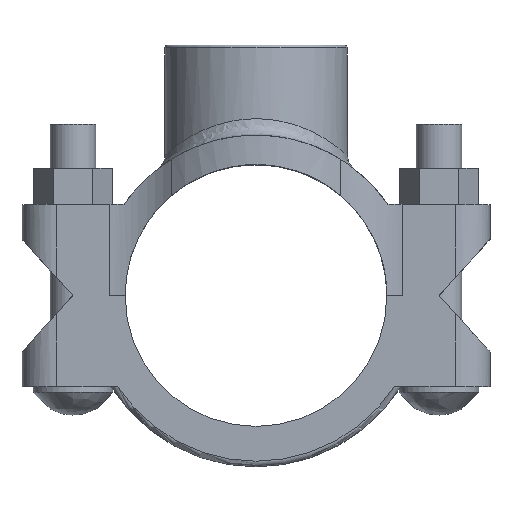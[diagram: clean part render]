
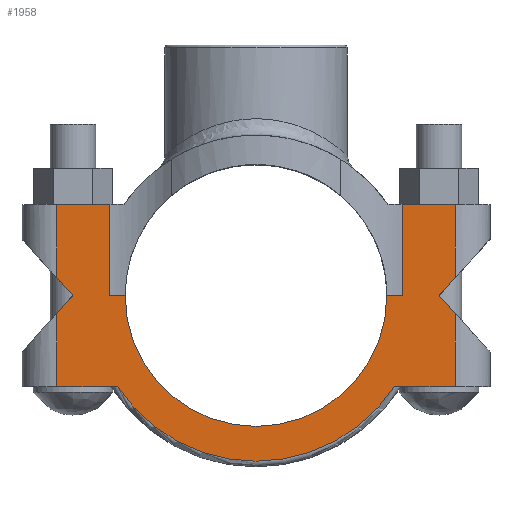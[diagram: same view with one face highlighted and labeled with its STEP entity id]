
A CAD part, top view. The second image highlights one B-rep face of the part: STEP entity #1958.
In plain terms, the highlighted planar face has unit normal (0, 0, 1).
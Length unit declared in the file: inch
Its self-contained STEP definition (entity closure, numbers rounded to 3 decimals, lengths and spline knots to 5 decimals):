
#109=PLANE('',#2148);
#166=LINE('',#3040,#318);
#172=LINE('',#3227,#324);
#215=LINE('',#3449,#367);
#228=LINE('',#3486,#380);
#235=LINE('',#3602,#387);
#239=LINE('',#3615,#391);
#244=LINE('',#3626,#396);
#245=LINE('',#3628,#397);
#254=LINE('',#3652,#406);
#255=LINE('',#3656,#407);
#256=LINE('',#3659,#408);
#257=LINE('',#3660,#409);
#258=LINE('',#3662,#410);
#259=LINE('',#3663,#411);
#260=LINE('',#3665,#412);
#261=LINE('',#3666,#413);
#318=VECTOR('',#2311,0.3937);
#324=VECTOR('',#2359,0.3937);
#367=VECTOR('',#2504,0.3937);
#380=VECTOR('',#2541,0.3937);
#387=VECTOR('',#2556,0.3937);
#391=VECTOR('',#2568,0.3937);
#396=VECTOR('',#2581,0.3937);
#397=VECTOR('',#2584,0.3937);
#406=VECTOR('',#2611,0.3937);
#407=VECTOR('',#2616,0.3937);
#408=VECTOR('',#2619,0.3937);
#409=VECTOR('',#2620,0.3937);
#410=VECTOR('',#2621,0.3937);
#411=VECTOR('',#2622,0.3937);
#412=VECTOR('',#2623,0.3937);
#413=VECTOR('',#2624,0.3937);
#502=FACE_OUTER_BOUND('',#606,.T.);
#606=EDGE_LOOP('',(#1592,#1593,#1594,#1595,#1596,#1597,#1598,#1599,#1600,
#1601,#1602,#1603,#1604,#1605,#1606,#1607,#1608,#1609));
#694=CIRCLE('',#2126,1.4375);
#702=CIRCLE('',#2149,1.82);
#794=VERTEX_POINT('',#3037);
#795=VERTEX_POINT('',#3039);
#810=VERTEX_POINT('',#3224);
#811=VERTEX_POINT('',#3226);
#861=VERTEX_POINT('',#3446);
#862=VERTEX_POINT('',#3448);
#873=VERTEX_POINT('',#3483);
#874=VERTEX_POINT('',#3485);
#877=VERTEX_POINT('',#3492);
#882=VERTEX_POINT('',#3545);
#887=VERTEX_POINT('',#3601);
#892=VERTEX_POINT('',#3613);
#894=VERTEX_POINT('',#3624);
#900=VERTEX_POINT('',#3651);
#901=VERTEX_POINT('',#3655);
#902=VERTEX_POINT('',#3657);
#903=VERTEX_POINT('',#3661);
#904=VERTEX_POINT('',#3664);
#993=EDGE_CURVE('',#795,#794,#166,.T.);
#1016=EDGE_CURVE('',#811,#810,#172,.T.);
#1089=EDGE_CURVE('',#862,#861,#215,.T.);
#1108=EDGE_CURVE('',#874,#873,#228,.T.);
#1117=EDGE_CURVE('',#877,#882,#694,.T.);
#1123=EDGE_CURVE('',#887,#874,#235,.T.);
#1130=EDGE_CURVE('',#861,#892,#239,.T.);
#1136=EDGE_CURVE('',#894,#794,#244,.T.);
#1137=EDGE_CURVE('',#877,#894,#245,.T.);
#1149=EDGE_CURVE('',#887,#900,#254,.T.);
#1151=EDGE_CURVE('',#901,#892,#255,.T.);
#1152=EDGE_CURVE('',#901,#902,#702,.T.);
#1153=EDGE_CURVE('',#900,#902,#256,.T.);
#1154=EDGE_CURVE('',#873,#795,#257,.T.);
#1155=EDGE_CURVE('',#903,#882,#258,.T.);
#1156=EDGE_CURVE('',#903,#811,#259,.T.);
#1157=EDGE_CURVE('',#904,#810,#260,.T.);
#1158=EDGE_CURVE('',#904,#862,#261,.T.);
#1592=ORIENTED_EDGE('',*,*,#1089,.T.);
#1593=ORIENTED_EDGE('',*,*,#1130,.T.);
#1594=ORIENTED_EDGE('',*,*,#1151,.F.);
#1595=ORIENTED_EDGE('',*,*,#1152,.T.);
#1596=ORIENTED_EDGE('',*,*,#1153,.F.);
#1597=ORIENTED_EDGE('',*,*,#1149,.F.);
#1598=ORIENTED_EDGE('',*,*,#1123,.T.);
#1599=ORIENTED_EDGE('',*,*,#1108,.T.);
#1600=ORIENTED_EDGE('',*,*,#1154,.T.);
#1601=ORIENTED_EDGE('',*,*,#993,.T.);
#1602=ORIENTED_EDGE('',*,*,#1136,.F.);
#1603=ORIENTED_EDGE('',*,*,#1137,.F.);
#1604=ORIENTED_EDGE('',*,*,#1117,.T.);
#1605=ORIENTED_EDGE('',*,*,#1155,.F.);
#1606=ORIENTED_EDGE('',*,*,#1156,.T.);
#1607=ORIENTED_EDGE('',*,*,#1016,.T.);
#1608=ORIENTED_EDGE('',*,*,#1157,.F.);
#1609=ORIENTED_EDGE('',*,*,#1158,.T.);
#1958=ADVANCED_FACE('',(#502),#109,.T.);
#2126=AXIS2_PLACEMENT_3D('',#3547,#2549,#2550);
#2148=AXIS2_PLACEMENT_3D('',#3654,#2614,#2615);
#2149=AXIS2_PLACEMENT_3D('',#3658,#2617,#2618);
#2311=DIRECTION('',(-1.,0.,0.));
#2359=DIRECTION('',(-1.,0.,0.));
#2504=DIRECTION('',(-0.67,-0.742,0.));
#2541=DIRECTION('',(0.67,0.742,0.));
#2549=DIRECTION('center_axis',(0.,0.,-1.));
#2550=DIRECTION('ref_axis',(-1.,0.,0.));
#2556=DIRECTION('',(-0.67,0.742,0.));
#2568=DIRECTION('',(0.,-1.,0.));
#2581=DIRECTION('',(0.,1.,0.));
#2584=DIRECTION('',(1.,0.,0.));
#2611=DIRECTION('',(0.,-1.,0.));
#2614=DIRECTION('center_axis',(0.,0.,1.));
#2615=DIRECTION('ref_axis',(1.,0.,0.));
#2616=DIRECTION('',(-1.,0.,0.));
#2617=DIRECTION('center_axis',(0.,0.,1.));
#2618=DIRECTION('ref_axis',(-1.,0.,0.));
#2619=DIRECTION('',(-1.,0.,0.));
#2620=DIRECTION('',(0.,1.,0.));
#2621=DIRECTION('',(1.,0.,0.));
#2622=DIRECTION('',(0.,1.,0.));
#2623=DIRECTION('',(0.,1.,0.));
#2624=DIRECTION('',(0.67,-0.742,0.));
#3037=CARTESIAN_POINT('',(1.60565,1.,0.75));
#3039=CARTESIAN_POINT('',(2.19,1.,0.75));
#3040=CARTESIAN_POINT('',(1.52698,1.,0.75));
#3224=CARTESIAN_POINT('',(-2.19,1.,0.75));
#3226=CARTESIAN_POINT('',(-1.60565,1.,0.75));
#3227=CARTESIAN_POINT('',(-2.38,1.,0.75));
#3446=CARTESIAN_POINT('',(-2.19,-0.19929,0.75));
#3448=CARTESIAN_POINT('',(-2.01,0.,0.75));
#3449=CARTESIAN_POINT('',(-1.47777,0.58925,0.75));
#3483=CARTESIAN_POINT('',(2.19,0.19929,0.75));
#3485=CARTESIAN_POINT('',(2.01,0.,0.75));
#3486=CARTESIAN_POINT('',(2.19917,0.20943,0.75));
#3492=CARTESIAN_POINT('',(1.4375,0.,0.75));
#3545=CARTESIAN_POINT('',(-1.4375,0.,0.75));
#3547=CARTESIAN_POINT('Origin',(0.,0.,0.75));
#3601=CARTESIAN_POINT('',(2.19,-0.19929,0.75));
#3602=CARTESIAN_POINT('',(1.91917,0.10057,0.75));
#3613=CARTESIAN_POINT('',(-2.19,-1.,0.75));
#3615=CARTESIAN_POINT('',(-2.19,0.,0.75));
#3624=CARTESIAN_POINT('',(1.60565,0.,0.75));
#3626=CARTESIAN_POINT('',(1.60565,0.,0.75));
#3628=CARTESIAN_POINT('',(1.095,0.,0.75));
#3651=CARTESIAN_POINT('',(2.19,-1.,0.75));
#3652=CARTESIAN_POINT('',(2.19,0.,0.75));
#3654=CARTESIAN_POINT('Origin',(1.60565,0.,0.75));
#3655=CARTESIAN_POINT('',(-1.52066,-1.,0.75));
#3656=CARTESIAN_POINT('',(-2.19,-1.,0.75));
#3657=CARTESIAN_POINT('',(1.52066,-1.,0.75));
#3658=CARTESIAN_POINT('Origin',(0.,0.,
0.75));
#3659=CARTESIAN_POINT('',(-2.19,-1.,0.75));
#3660=CARTESIAN_POINT('',(2.19,0.,0.75));
#3661=CARTESIAN_POINT('',(-1.60565,0.,0.75));
#3662=CARTESIAN_POINT('',(1.095,0.,0.75));
#3663=CARTESIAN_POINT('',(-1.60565,0.,0.75));
#3664=CARTESIAN_POINT('',(-2.19,0.19929,0.75));
#3665=CARTESIAN_POINT('',(-2.19,0.,0.75));
#3666=CARTESIAN_POINT('',(-2.05044,0.04477,0.75));
